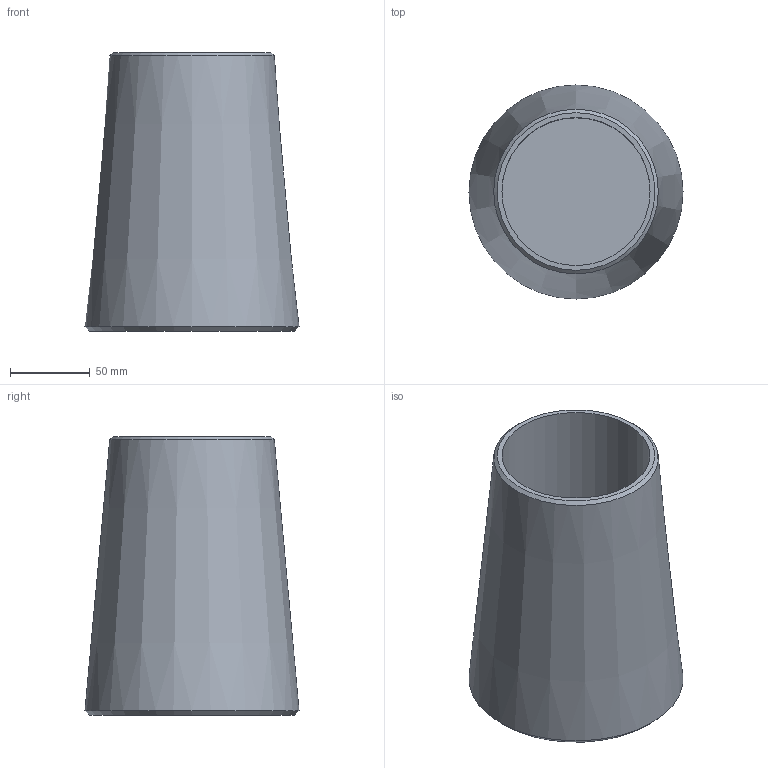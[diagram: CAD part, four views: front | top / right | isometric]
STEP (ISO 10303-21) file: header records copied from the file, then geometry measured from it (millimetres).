
FILE_DESCRIPTION(/* description */ (''),/* implementation_level */ '2;1');
FILE_NAME(/* name */ 'C:\Vault_WS\Designs\SB\01-PX\Verzinkt\ZSS\520 - Kontermutter\520-090-KMU.stp',/* time_stamp */ '2020-06-18T12:37:20+02:00',/* author */ ('schwarz'),/* organization */ (''),/* preprocessor_version */ 'ST-DEVELOPER v16.1',/* originating_system */ 'Autodesk Inventor 2016',/* authorisation */ '');
FILE_SCHEMA (('AUTOMOTIVE_DESIGN { 1 0 10303 214 3 1 1 }'));
Length unit declared in the file: millimetre
Products named in the file (1): Kontermutter 520 090 Kunde
Bounding box: 134.45 x 134.45 x 175 mm (x, y, z)
Volume: 1072497.8 mm3; surface area: 125140.8 mm2
Topology: 1 solids, 1 shells, 7 faces, 10 edges, 6 vertices
Faces by surface type: cone 3, plane 3, cylinder 1
Full cylindrical faces by diameter (mm): 93 x1
Entity records: 158 total; most frequent: DIRECTION 28, CARTESIAN_POINT 20, AXIS2_PLACEMENT_3D 14, EDGE_LOOP 12, ORIENTED_EDGE 12, FACE_OUTER_BOUND 7, ADVANCED_FACE 7, CIRCLE 6
